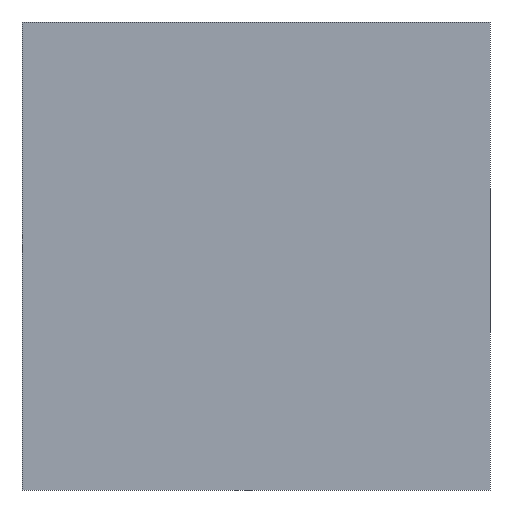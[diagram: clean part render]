
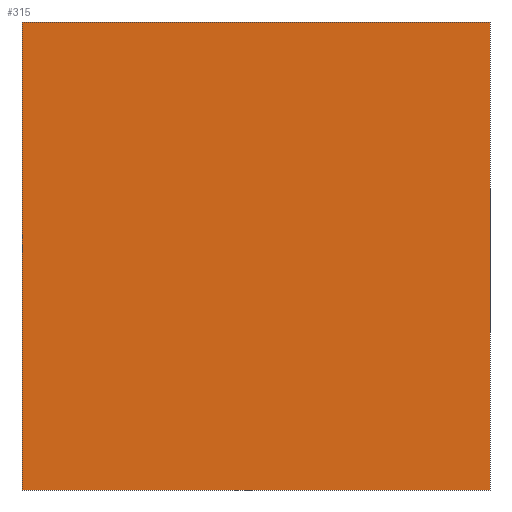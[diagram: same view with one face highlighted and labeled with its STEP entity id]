
A CAD part, front view. The second image highlights one B-rep face of the part: STEP entity #315.
In plain terms, the highlighted planar face has unit normal (0, -1, 0).
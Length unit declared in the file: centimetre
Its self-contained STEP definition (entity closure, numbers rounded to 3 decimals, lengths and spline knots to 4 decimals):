
#8 = LINE ( 'NONE', #50, #264 ) ;
#16 = CARTESIAN_POINT ( 'NONE',  ( 0., 0., 1000. ) ) ;
#25 = DIRECTION ( 'NONE',  ( 1., 0., 0. ) ) ;
#50 = CARTESIAN_POINT ( 'NONE',  ( 0., 0., 1000. ) ) ;
#54 = CARTESIAN_POINT ( 'NONE',  ( 0., 0., 0. ) ) ;
#75 = VERTEX_POINT ( 'NONE', #258 ) ;
#78 = VERTEX_POINT ( 'NONE', #503 ) ;
#85 = VERTEX_POINT ( 'NONE', #54 ) ;
#101 = DIRECTION ( 'NONE',  ( 0., 0., -1. ) ) ;
#111 = CARTESIAN_POINT ( 'NONE',  ( 0., 0., 1000. ) ) ;
#138 = LINE ( 'NONE', #252, #374 ) ;
#152 = VECTOR ( 'NONE', #349, 100. ) ;
#170 = ORIENTED_EDGE ( 'NONE', *, *, #517, .T. ) ;
#201 = ORIENTED_EDGE ( 'NONE', *, *, #269, .F. ) ;
#230 = DIRECTION ( 'NONE',  ( 0., 1., 0. ) ) ;
#241 = FACE_OUTER_BOUND ( 'NONE', #365, .T. ) ;
#252 = CARTESIAN_POINT ( 'NONE',  ( 0., 0., 1000. ) ) ;
#258 = CARTESIAN_POINT ( 'NONE',  ( 1000., 0., 0. ) ) ;
#264 = VECTOR ( 'NONE', #101, 100. ) ;
#269 = EDGE_CURVE ( 'NONE', #78, #75, #483, .T. ) ;
#276 = AXIS2_PLACEMENT_3D ( 'NONE', #111, #230, #397 ) ;
#311 = CARTESIAN_POINT ( 'NONE',  ( 0., 0., 0. ) ) ;
#315 = ADVANCED_FACE ( 'NONE', ( #241 ), #475, .F. ) ;
#326 = EDGE_CURVE ( 'NONE', #85, #75, #519, .T. ) ;
#349 = DIRECTION ( 'NONE',  ( 0., 0., -1. ) ) ;
#365 = EDGE_LOOP ( 'NONE', ( #469, #201, #482, #170 ) ) ;
#374 = VECTOR ( 'NONE', #392, 100. ) ;
#392 = DIRECTION ( 'NONE',  ( 1., 0., 0. ) ) ;
#397 = DIRECTION ( 'NONE',  ( 0., 0., 1. ) ) ;
#402 = CARTESIAN_POINT ( 'NONE',  ( 1000., 0., 1000. ) ) ;
#419 = VECTOR ( 'NONE', #25, 100. ) ;
#469 = ORIENTED_EDGE ( 'NONE', *, *, #326, .T. ) ;
#475 = PLANE ( 'NONE',  #276 ) ;
#482 = ORIENTED_EDGE ( 'NONE', *, *, #488, .F. ) ;
#483 = LINE ( 'NONE', #402, #152 ) ;
#488 = EDGE_CURVE ( 'NONE', #528, #78, #138, .T. ) ;
#503 = CARTESIAN_POINT ( 'NONE',  ( 1000., 0., 1000. ) ) ;
#517 = EDGE_CURVE ( 'NONE', #528, #85, #8, .T. ) ;
#519 = LINE ( 'NONE', #311, #419 ) ;
#528 = VERTEX_POINT ( 'NONE', #16 ) ;
